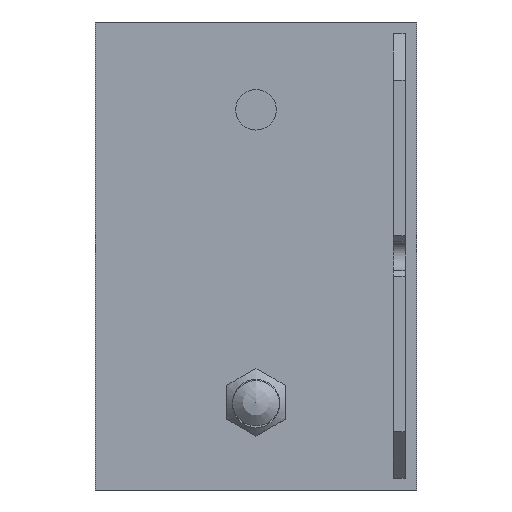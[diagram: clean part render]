
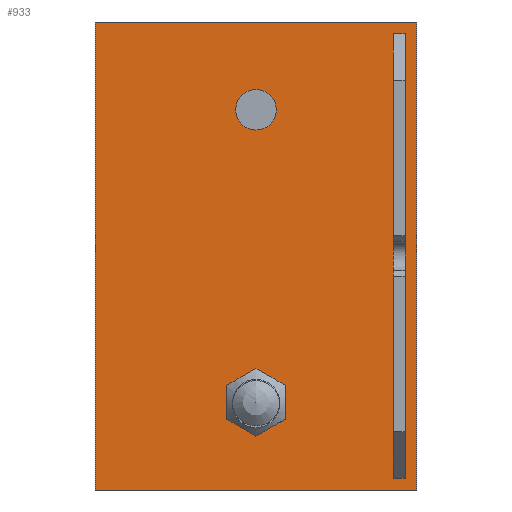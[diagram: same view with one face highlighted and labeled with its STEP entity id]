
A CAD part, left-side view. The second image highlights one B-rep face of the part: STEP entity #933.
In plain terms, the highlighted planar face has unit normal (-1, 0, 0).
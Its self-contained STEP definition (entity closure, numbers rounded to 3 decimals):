
#15=FACE_BOUND('',#375,.T.);
#16=FACE_BOUND('',#376,.T.);
#17=FACE_BOUND('',#377,.T.);
#63=PLANE('',#1024);
#130=LINE('',#1509,#231);
#150=LINE('',#1550,#251);
#151=LINE('',#1553,#252);
#154=LINE('',#1558,#255);
#167=LINE('',#1587,#268);
#168=LINE('',#1590,#269);
#169=LINE('',#1592,#270);
#170=LINE('',#1593,#271);
#231=VECTOR('',#1176,10.);
#251=VECTOR('',#1216,10.);
#252=VECTOR('',#1219,10.);
#255=VECTOR('',#1226,10.);
#268=VECTOR('',#1255,10.);
#269=VECTOR('',#1258,10.);
#270=VECTOR('',#1259,10.);
#271=VECTOR('',#1260,10.);
#323=FACE_OUTER_BOUND('',#374,.T.);
#374=EDGE_LOOP('',(#853,#854,#855,#856));
#375=EDGE_LOOP('',(#857,#858));
#376=EDGE_LOOP('',(#859,#860));
#377=EDGE_LOOP('',(#861,#862,#863,#864));
#394=CIRCLE('',#985,5.);
#395=CIRCLE('',#986,5.);
#398=CIRCLE('',#990,3.464);
#399=CIRCLE('',#991,3.464);
#430=VERTEX_POINT('',#1417);
#431=VERTEX_POINT('',#1419);
#434=VERTEX_POINT('',#1427);
#435=VERTEX_POINT('',#1429);
#466=VERTEX_POINT('',#1506);
#467=VERTEX_POINT('',#1508);
#478=VERTEX_POINT('',#1548);
#479=VERTEX_POINT('',#1552);
#484=VERTEX_POINT('',#1580);
#487=VERTEX_POINT('',#1585);
#488=VERTEX_POINT('',#1589);
#489=VERTEX_POINT('',#1591);
#532=EDGE_CURVE('',#431,#430,#394,.T.);
#533=EDGE_CURVE('',#430,#431,#395,.T.);
#537=EDGE_CURVE('',#435,#434,#398,.T.);
#538=EDGE_CURVE('',#434,#435,#399,.T.);
#575=EDGE_CURVE('',#467,#466,#130,.T.);
#596=EDGE_CURVE('',#466,#478,#150,.T.);
#597=EDGE_CURVE('',#479,#467,#151,.T.);
#600=EDGE_CURVE('',#478,#479,#154,.T.);
#614=EDGE_CURVE('',#484,#487,#167,.T.);
#615=EDGE_CURVE('',#488,#484,#168,.T.);
#616=EDGE_CURVE('',#489,#487,#169,.T.);
#617=EDGE_CURVE('',#488,#489,#170,.T.);
#853=ORIENTED_EDGE('',*,*,#615,.T.);
#854=ORIENTED_EDGE('',*,*,#614,.T.);
#855=ORIENTED_EDGE('',*,*,#616,.F.);
#856=ORIENTED_EDGE('',*,*,#617,.F.);
#857=ORIENTED_EDGE('',*,*,#532,.T.);
#858=ORIENTED_EDGE('',*,*,#533,.T.);
#859=ORIENTED_EDGE('',*,*,#537,.T.);
#860=ORIENTED_EDGE('',*,*,#538,.T.);
#861=ORIENTED_EDGE('',*,*,#597,.T.);
#862=ORIENTED_EDGE('',*,*,#575,.T.);
#863=ORIENTED_EDGE('',*,*,#596,.T.);
#864=ORIENTED_EDGE('',*,*,#600,.T.);
#933=ADVANCED_FACE('',(#323,#15,#16,#17),#63,.T.);
#985=AXIS2_PLACEMENT_3D('',#1420,#1105,#1106);
#986=AXIS2_PLACEMENT_3D('',#1421,#1107,#1108);
#990=AXIS2_PLACEMENT_3D('',#1430,#1116,#1117);
#991=AXIS2_PLACEMENT_3D('',#1431,#1118,#1119);
#1024=AXIS2_PLACEMENT_3D('',#1588,#1256,#1257);
#1105=DIRECTION('center_axis',(1.,0.,0.));
#1106=DIRECTION('ref_axis',(0.,0.,1.));
#1107=DIRECTION('center_axis',(1.,0.,0.));
#1108=DIRECTION('ref_axis',(0.,0.,1.));
#1116=DIRECTION('center_axis',(1.,0.,0.));
#1117=DIRECTION('ref_axis',(0.,0.,1.));
#1118=DIRECTION('center_axis',(1.,0.,0.));
#1119=DIRECTION('ref_axis',(0.,0.,1.));
#1176=DIRECTION('',(0.,0.,-1.));
#1216=DIRECTION('',(0.,1.,0.));
#1219=DIRECTION('',(0.,-1.,0.));
#1226=DIRECTION('',(0.,0.,1.));
#1255=DIRECTION('',(0.,1.,0.));
#1256=DIRECTION('center_axis',(-1.,0.,0.));
#1257=DIRECTION('ref_axis',(0.,0.,1.));
#1258=DIRECTION('',(0.,0.,1.));
#1259=DIRECTION('',(0.,0.,1.));
#1260=DIRECTION('',(0.,1.,0.));
#1417=CARTESIAN_POINT('',(-140.,27.5,-30.));
#1419=CARTESIAN_POINT('',(-140.,27.5,-20.));
#1420=CARTESIAN_POINT('Origin',(-140.,27.5,-25.));
#1421=CARTESIAN_POINT('Origin',(-140.,27.5,-25.));
#1427=CARTESIAN_POINT('',(-140.,27.5,21.536));
#1429=CARTESIAN_POINT('',(-140.,27.5,28.464));
#1430=CARTESIAN_POINT('Origin',(-140.,27.5,25.));
#1431=CARTESIAN_POINT('Origin',(-140.,27.5,25.));
#1506=CARTESIAN_POINT('',(-140.,2.,-38.));
#1508=CARTESIAN_POINT('',(-140.,2.,38.));
#1509=CARTESIAN_POINT('',(-140.,2.,-20.));
#1548=CARTESIAN_POINT('',(-140.,4.,-38.));
#1550=CARTESIAN_POINT('',(-140.,1.,-38.));
#1552=CARTESIAN_POINT('',(-140.,4.,38.));
#1553=CARTESIAN_POINT('',(-140.,1.,38.));
#1558=CARTESIAN_POINT('',(-140.,4.,-20.));
#1580=CARTESIAN_POINT('',(-140.,0.,40.));
#1585=CARTESIAN_POINT('',(-140.,55.,40.));
#1587=CARTESIAN_POINT('',(-140.,0.,40.));
#1588=CARTESIAN_POINT('Origin',(-140.,0.,-40.));
#1589=CARTESIAN_POINT('',(-140.,0.,-40.));
#1590=CARTESIAN_POINT('',(-140.,0.,-40.));
#1591=CARTESIAN_POINT('',(-140.,55.,-40.));
#1592=CARTESIAN_POINT('',(-140.,55.,-40.));
#1593=CARTESIAN_POINT('',(-140.,0.,-40.));
